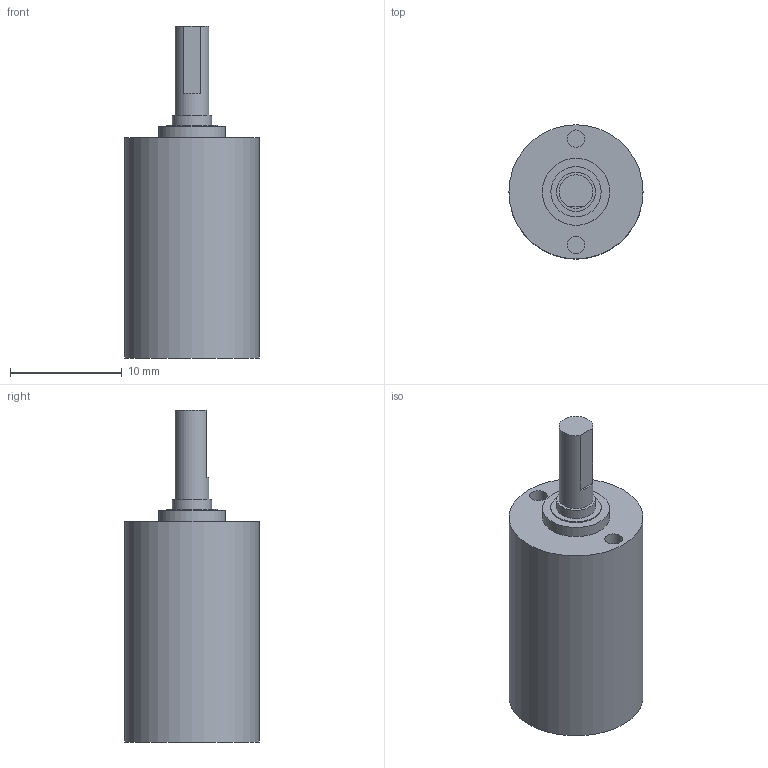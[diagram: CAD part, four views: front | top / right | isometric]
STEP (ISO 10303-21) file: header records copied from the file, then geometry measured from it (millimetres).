
FILE_DESCRIPTION((''),'2;1');
FILE_NAME('G:\Disegni\Progetti\D8500÷D8599\D8514\Riduttori\E - Riduttori STEP - SBZ\12_4K STEP\12_4K 2stage.stp','2012-05-24T15:51:53',('bonazzoli'),(''),'Autodesk Inventor 2012','Autodesk Inventor 2012','');
FILE_SCHEMA(('AUTOMOTIVE_DESIGN { 1 0 10303 214 1 1 1 1 }'));
Length unit declared in the file: millimetre
Products named in the file (1): 12_4K 2stage
Bounding box: 12 x 12 x 29.7 mm (x, y, z)
Volume: 2314.2 mm3; surface area: 1093.7 mm2
Topology: 1 solids, 1 shells, 17 faces, 27 edges, 18 vertices
Faces by surface type: plane 10, cylinder 7
Full cylindrical faces by diameter (mm): 1.567 x2, 3 x1, 3.5 x1, 4.5 x1, 6 x1, 12 x1
Entity records: 378 total; most frequent: DIRECTION 70, CARTESIAN_POINT 54, ORIENTED_EDGE 38, AXIS2_PLACEMENT_3D 33, EDGE_LOOP 30, EDGE_CURVE 19, VERTEX_POINT 17, FACE_OUTER_BOUND 17
